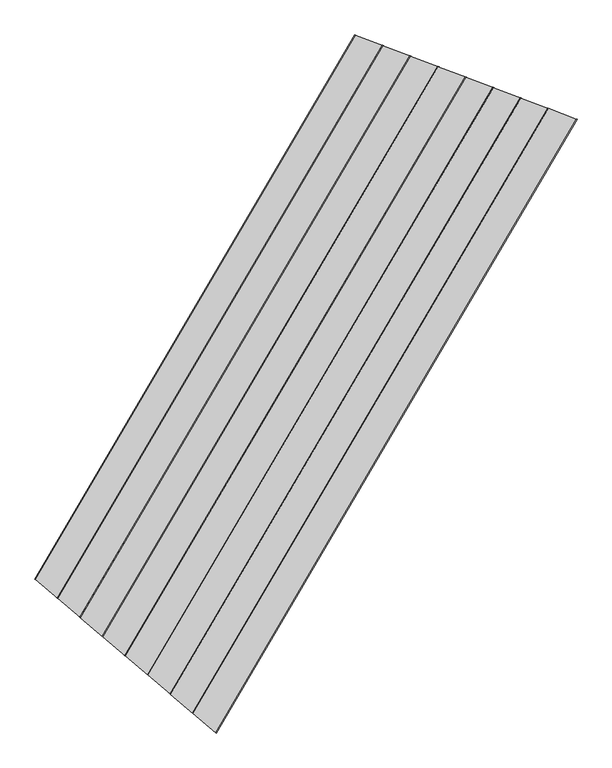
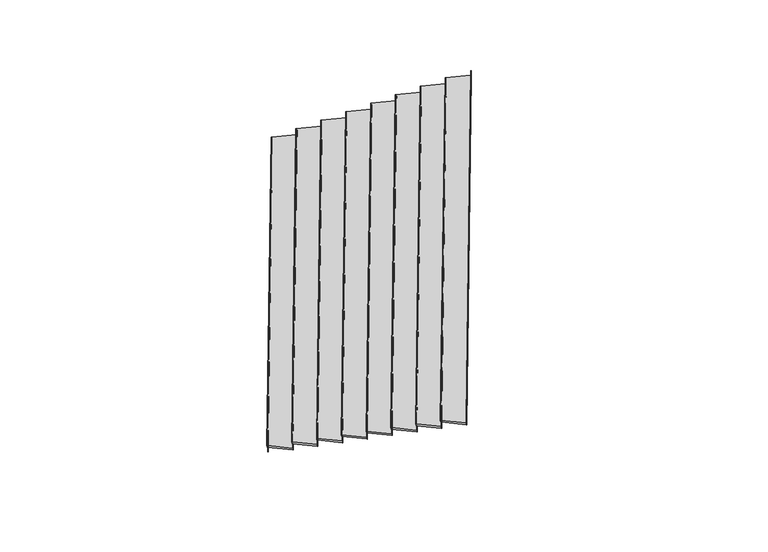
"""IFC4 building model written with IfcOpenShell, lengths in millimetres: stair flight geometry, Wood Steps with 50 mm Tread 20 mm Nosing 13 mm Riser."""

from ifc_helpers import new_model, si_unit, frame, origin, place, context, project, spatial, ellipse_curve, faceted_brep, source, transform, mapped, element, save
from ifc_brep_helpers import plane_surface, cylinder_surface, advanced_brep


def stair_flight_4f2d7eac(model_context):
    return source(origin(), model_context, "Body", "SolidModel", [
        advanced_brep(
        [(913959.7181978, -4840.2369862, 6159.2941176), (913959.7181978, -4840.2369862, 6179.2941176), (920426.3261297, 6161.1936432, 6179.2941176), (920426.3261297, 6161.1936432, 6159.2941176), (920993.7344273, 5945.6025897, 6179.2941176), (914422.7104977, -5233.4675947, 6179.2941176), (920426.3261297, 6161.1936432, 6129.2941176), (920993.7344273, 5945.6025897, 6129.2941176), (914422.7104977, -5233.4675947, 6129.2941176), (913959.7181978, -4840.2369862, 6129.2941176)],
        [
            (0, 1, ellipse_curve(frame((913959.7181978, -4840.2369862, 6169.2941176), z_axis=(0.6473493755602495, 0.7621934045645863, 0.0), x_axis=(0.7621934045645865, -0.647349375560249, 0.0)), 10.1510082, 10.0)),
            (1, 2),
            (2, 3, ellipse_curve(frame((920426.3261297, 6161.1936432, 6169.2941176), z_axis=(-0.3551830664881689, -0.934796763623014, 0.0), x_axis=(-0.9347967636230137, 0.35518306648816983, 0.0)), 10.1432955, 10.0)),
            (3, 0),
            (4, 2),
            (1, 5),
            (5, 4),
            (6, 7),
            (7, 8),
            (8, 9),
            (9, 6),
            (4, 7),
            (6, 3),
            (9, 0),
            (8, 5),
        ],
        [
            cylinder_surface(frame((913959.7181978, -4840.2369862, 6169.2941176), z_axis=(-0.5067393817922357, -0.862099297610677, 0.0), x_axis=(0.862099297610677, -0.5067393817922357, 0.0)), 10.0),
            plane_surface(frame((925739.5110622, 4142.4090361, 6179.2941176), z_axis=(0.0, 0.0, 1.0000000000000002), x_axis=(-0.934796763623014, 0.3551830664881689, 0.0))),
            plane_surface(frame((925739.5110622, 4142.4090361, 6129.2941176), z_axis=(0.0, 0.0, -1.0000000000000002), x_axis=(0.934796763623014, -0.3551830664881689, 0.0))),
            plane_surface(frame((920993.7344273, 5945.6025897, 6179.2941176), z_axis=(0.3551830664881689, 0.934796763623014, 0.0), x_axis=(0.0, 0.0, -1.0))),
            plane_surface(frame((920426.3261297, 6161.1936432, 6179.2941176), z_axis=(-0.862099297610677, 0.5067393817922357, 0.0), x_axis=(0.0, 0.0, -1.0))),
            plane_surface(frame((913959.7181978, -4840.2369862, 6179.2941176), z_axis=(-0.6473493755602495, -0.7621934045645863, 0.0), x_axis=(0.0, 0.0, -1.0))),
            plane_surface(frame((914422.7104977, -5233.4675947, 6179.2941176), z_axis=(0.8620992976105, -0.5067393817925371, 0.0), x_axis=(0.0, 0.0, -1.0))),
        ],
        [
            (0, [[1, 2, 3, 4]]),
            (1, [[5, -2, 6, 7]]),
            (2, [[8, 9, 10, 11]]),
            (3, [[-5, 12, -8, 13, -3]]),
            (4, [[-11, 14, -4, -13]]),
            (5, [[-6, -1, -14, -10, 15]]),
            (6, [[-7, -15, -9, -12]]),
        ],
    ),
        faceted_brep([(913967.4552293, -4846.808235, 6129.2941176), (913967.4552293, -4846.808235, 6000.0), (913977.1265187, -4855.0222961, 6000.0), (913977.1265187, -4855.0222961, 6129.2941176), (920435.8080495, 6157.5909164, 6129.2941176), (920447.6604493, 6153.0875078, 6129.2941176), (920447.6604493, 6153.0875078, 6000.0), (920435.8080495, 6157.5909164, 6000.0)], [[[0, 1, 2, 3]], [[4, 5, 6, 7]], [[1, 0, 4, 7]], [[2, 1, 7, 6]], [[3, 2, 6, 5]], [[0, 3, 5, 4]]]),
        faceted_brep([(914422.7104977, -5233.4675947, 6308.5882353), (914422.7104977, -5233.4675947, 6129.2941176), (914432.3817871, -5241.6816557, 6129.2941176), (914432.3817871, -5241.6816557, 6308.5882353), (920993.7344273, 5945.6025897, 6308.5882353), (921005.5868271, 5941.0991811, 6308.5882353), (921005.5868271, 5941.0991811, 6129.2941176), (920993.7344273, 5945.6025897, 6129.2941176)], [[[0, 1, 2, 3]], [[4, 5, 6, 7]], [[1, 0, 4, 7]], [[2, 1, 7, 6]], [[3, 2, 6, 5]], [[0, 3, 5, 4]]]),
        advanced_brep(
        [(921551.660805, 5733.614263, 6358.5882353), (920984.2525074, 5949.2053165, 6358.5882353), (914414.9734662, -5226.8963458, 6358.5882353), (914877.9657662, -5620.1269543, 6358.5882353), (920984.2525074, 5949.2053165, 6308.5882353), (921551.660805, 5733.614263, 6308.5882353), (914877.9657662, -5620.1269543, 6308.5882353), (914414.9734662, -5226.8963458, 6308.5882353), (920984.2525074, 5949.2053165, 6338.5882353), (914414.9734662, -5226.8963458, 6338.5882353)],
        [
            (0, 1),
            (1, 2),
            (2, 3),
            (3, 0),
            (4, 5),
            (5, 6),
            (6, 7),
            (7, 4),
            (0, 5),
            (4, 8),
            (8, 1, ellipse_curve(frame((920984.2525074, 5949.2053165, 6348.5882353), z_axis=(0.3551830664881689, 0.934796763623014, 0.0), x_axis=(-0.9347967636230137, 0.3551830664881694, 0.0)), 10.1432955, 10.0)),
            (7, 9),
            (9, 8),
            (2, 9, ellipse_curve(frame((914414.9734662, -5226.8963458, 6348.5882353), z_axis=(-0.6473493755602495, -0.7621934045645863, 0.0), x_axis=(0.7621934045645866, -0.647349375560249, 0.0)), 10.1510082, 10.0)),
            (6, 3),
        ],
        [
            plane_surface(frame((925739.5110622, 4142.4090361, 6358.5882353), z_axis=(0.0, 0.0, 1.0000000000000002), x_axis=(-0.934796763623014, 0.3551830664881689, 0.0))),
            plane_surface(frame((925739.5110622, 4142.4090361, 6308.5882353), z_axis=(0.0, 0.0, -1.0000000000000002), x_axis=(0.934796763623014, -0.3551830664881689, 0.0))),
            plane_surface(frame((921551.660805, 5733.614263, 6358.5882353), z_axis=(0.3551830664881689, 0.934796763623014, 0.0), x_axis=(0.0, 0.0, -1.0))),
            plane_surface(frame((920984.2525074, 5949.2053165, 6358.5882353), z_axis=(-0.8620992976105, 0.5067393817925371, 0.0), x_axis=(0.0, 0.0, -1.0))),
            plane_surface(frame((914414.9734662, -5226.8963458, 6358.5882353), z_axis=(-0.6473493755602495, -0.7621934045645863, 0.0), x_axis=(0.0, 0.0, -1.0))),
            plane_surface(frame((914877.9657662, -5620.1269543, 6358.5882353), z_axis=(0.8620992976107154, -0.5067393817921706, 0.0), x_axis=(0.0, 0.0, -1.0))),
            cylinder_surface(frame((914414.9734662, -5226.8963458, 6348.5882353), z_axis=(-0.5067393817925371, -0.8620992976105, 0.0), x_axis=(0.8620992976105, -0.5067393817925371, 0.0)), 10.0),
        ],
        [
            (0, [[1, 2, 3, 4]]),
            (1, [[5, 6, 7, 8]]),
            (2, [[-1, 9, -5, 10, 11]]),
            (3, [[-8, 12, 13, -10]]),
            (4, [[-3, 14, -12, -7, 15]]),
            (5, [[-4, -15, -6, -9]]),
            (6, [[-14, -2, -11, -13]]),
        ],
    ),
        faceted_brep([(914877.9657662, -5620.1269543, 6487.8823529), (914877.9657662, -5620.1269543, 6308.5882353), (914887.6370555, -5628.3410153, 6308.5882353), (914887.6370555, -5628.3410153, 6487.8823529), (921551.660805, 5733.614263, 6487.8823529), (921563.5132048, 5729.1108544, 6487.8823529), (921563.5132048, 5729.1108544, 6308.5882353), (921551.660805, 5733.614263, 6308.5882353)], [[[0, 1, 2, 3]], [[4, 5, 6, 7]], [[1, 0, 4, 7]], [[2, 1, 7, 6]], [[3, 2, 6, 5]], [[0, 3, 5, 4]]]),
        advanced_brep(
        [(922109.5871827, 5521.6259363, 6537.8823529), (921542.1788852, 5737.2169898, 6537.8823529), (914870.2287346, -5613.5557055, 6537.8823529), (915333.2210346, -6006.7863139, 6537.8823529), (921542.1788852, 5737.2169898, 6487.8823529), (922109.5871827, 5521.6259363, 6487.8823529), (915333.2210346, -6006.7863139, 6487.8823529), (914870.2287346, -5613.5557055, 6487.8823529), (921542.1788852, 5737.2169898, 6517.8823529), (914870.2287346, -5613.5557055, 6517.8823529)],
        [
            (0, 1),
            (1, 2),
            (2, 3),
            (3, 0),
            (4, 5),
            (5, 6),
            (6, 7),
            (7, 4),
            (0, 5),
            (4, 8),
            (8, 1, ellipse_curve(frame((921542.1788852, 5737.2169898, 6527.8823529), z_axis=(0.3551830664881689, 0.934796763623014, 0.0), x_axis=(-0.9347967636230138, 0.3551830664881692, 0.0)), 10.1432955, 10.0)),
            (7, 9),
            (9, 8),
            (2, 9, ellipse_curve(frame((914870.2287346, -5613.5557055, 6527.8823529), z_axis=(-0.6473493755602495, -0.7621934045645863, 0.0), x_axis=(0.7621934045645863, -0.6473493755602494, 0.0)), 10.1510082, 10.0)),
            (6, 3),
        ],
        [
            plane_surface(frame((925739.5110622, 4142.4090361, 6537.8823529), z_axis=(0.0, 0.0, 1.0000000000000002), x_axis=(-0.934796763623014, 0.3551830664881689, 0.0))),
            plane_surface(frame((925739.5110622, 4142.4090361, 6487.8823529), z_axis=(0.0, 0.0, -1.0000000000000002), x_axis=(0.934796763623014, -0.3551830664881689, 0.0))),
            plane_surface(frame((922109.5871827, 5521.6259363, 6537.8823529), z_axis=(0.3551830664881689, 0.934796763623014, 0.0), x_axis=(0.0, 0.0, -1.0))),
            plane_surface(frame((921542.1788852, 5737.2169898, 6537.8823529), z_axis=(-0.8620992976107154, 0.5067393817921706, 0.0), x_axis=(0.0, 0.0, -1.0))),
            plane_surface(frame((914870.2287346, -5613.5557055, 6537.8823529), z_axis=(-0.6473493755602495, -0.7621934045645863, 0.0), x_axis=(0.0, 0.0, -1.0))),
            plane_surface(frame((915333.2210346, -6006.7863139, 6537.8823529), z_axis=(0.8620992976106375, -0.506739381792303, 0.0), x_axis=(0.0, 0.0, -1.0))),
            cylinder_surface(frame((914870.2287346, -5613.5557055, 6527.8823529), z_axis=(-0.5067393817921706, -0.8620992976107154, 0.0), x_axis=(0.8620992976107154, -0.5067393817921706, 0.0)), 10.0),
        ],
        [
            (0, [[1, 2, 3, 4]]),
            (1, [[5, 6, 7, 8]]),
            (2, [[-1, 9, -5, 10, 11]]),
            (3, [[-8, 12, 13, -10]]),
            (4, [[-3, 14, -12, -7, 15]]),
            (5, [[-4, -15, -6, -9]]),
            (6, [[-14, -2, -11, -13]]),
        ],
    ),
        faceted_brep([(915333.2210346, -6006.7863139, 6667.1764706), (915333.2210346, -6006.7863139, 6487.8823529), (915342.8923239, -6015.000375, 6487.8823529), (915342.8923239, -6015.000375, 6667.1764706), (922109.5871827, 5521.6259363, 6667.1764706), (922121.4395826, 5517.1225277, 6667.1764706), (922121.4395826, 5517.1225277, 6487.8823529), (922109.5871827, 5521.6259363, 6487.8823529)], [[[0, 1, 2, 3]], [[4, 5, 6, 7]], [[1, 0, 4, 7]], [[2, 1, 7, 6]], [[3, 2, 6, 5]], [[0, 3, 5, 4]]]),
        advanced_brep(
        [(922667.5135605, 5309.6376096, 6717.1764706), (922100.1052629, 5525.2286631, 6717.1764706), (915325.484003, -6000.2150651, 6717.1764706), (915788.476303, -6393.4456736, 6717.1764706), (922100.1052629, 5525.2286631, 6667.1764706), (922667.5135605, 5309.6376096, 6667.1764706), (915788.476303, -6393.4456736, 6667.1764706), (915325.484003, -6000.2150651, 6667.1764706), (922100.1052629, 5525.2286631, 6697.1764706), (915325.484003, -6000.2150651, 6697.1764706)],
        [
            (0, 1),
            (1, 2),
            (2, 3),
            (3, 0),
            (4, 5),
            (5, 6),
            (6, 7),
            (7, 4),
            (0, 5),
            (4, 8),
            (8, 1, ellipse_curve(frame((922100.1052629, 5525.2286631, 6707.1764706), z_axis=(0.3551830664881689, 0.934796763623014, 0.0), x_axis=(-0.9347967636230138, 0.3551830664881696, 0.0)), 10.1432955, 10.0)),
            (7, 9),
            (9, 8),
            (2, 9, ellipse_curve(frame((915325.484003, -6000.2150651, 6707.1764706), z_axis=(-0.6473493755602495, -0.7621934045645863, 0.0), x_axis=(0.7621934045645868, -0.647349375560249, 0.0)), 10.1510082, 10.0)),
            (6, 3),
        ],
        [
            plane_surface(frame((925739.5110622, 4142.4090361, 6717.1764706), z_axis=(0.0, 0.0, 1.0000000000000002), x_axis=(-0.934796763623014, 0.3551830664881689, 0.0))),
            plane_surface(frame((925739.5110622, 4142.4090361, 6667.1764706), z_axis=(0.0, 0.0, -1.0000000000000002), x_axis=(0.934796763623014, -0.3551830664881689, 0.0))),
            plane_surface(frame((922667.5135605, 5309.6376096, 6717.1764706), z_axis=(0.3551830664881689, 0.934796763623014, 0.0), x_axis=(0.0, 0.0, -1.0))),
            plane_surface(frame((922100.1052629, 5525.2286631, 6717.1764706), z_axis=(-0.8620992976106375, 0.506739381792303, 0.0), x_axis=(0.0, 0.0, -1.0))),
            plane_surface(frame((915325.484003, -6000.2150651, 6717.1764706), z_axis=(-0.6473493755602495, -0.7621934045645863, 0.0), x_axis=(0.0, 0.0, -1.0))),
            plane_surface(frame((915788.476303, -6393.4456736, 6717.1764706), z_axis=(0.862099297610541, -0.5067393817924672, 0.0), x_axis=(0.0, 0.0, -1.0))),
            cylinder_surface(frame((915325.484003, -6000.2150651, 6707.1764706), z_axis=(-0.506739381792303, -0.8620992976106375, 0.0), x_axis=(0.8620992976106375, -0.506739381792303, 0.0)), 10.0),
        ],
        [
            (0, [[1, 2, 3, 4]]),
            (1, [[5, 6, 7, 8]]),
            (2, [[-1, 9, -5, 10, 11]]),
            (3, [[-8, 12, 13, -10]]),
            (4, [[-3, 14, -12, -7, 15]]),
            (5, [[-4, -15, -6, -9]]),
            (6, [[-14, -2, -11, -13]]),
        ],
    ),
        faceted_brep([(915788.476303, -6393.4456736, 6846.4705882), (915788.476303, -6393.4456736, 6667.1764706), (915798.1475923, -6401.6597346, 6667.1764706), (915798.1475923, -6401.6597346, 6846.4705882), (922667.5135605, 5309.6376096, 6846.4705882), (922679.3659603, 5305.134201, 6846.4705882), (922679.3659603, 5305.134201, 6667.1764706), (922667.5135605, 5309.6376096, 6667.1764706)], [[[0, 1, 2, 3]], [[4, 5, 6, 7]], [[1, 0, 4, 7]], [[2, 1, 7, 6]], [[3, 2, 6, 5]], [[0, 3, 5, 4]]]),
        advanced_brep(
        [(923225.4399382, 5097.6492829, 6896.4705882), (922658.0316406, 5313.2403364, 6896.4705882), (915780.7392714, -6386.8744247, 6896.4705882), (916243.7315714, -6780.1050332, 6896.4705882), (922658.0316406, 5313.2403364, 6846.4705882), (923225.4399382, 5097.6492829, 6846.4705882), (916243.7315714, -6780.1050332, 6846.4705882), (915780.7392714, -6386.8744247, 6846.4705882), (922658.0316406, 5313.2403364, 6876.4705882), (915780.7392714, -6386.8744247, 6876.4705882)],
        [
            (0, 1),
            (1, 2),
            (2, 3),
            (3, 0),
            (4, 5),
            (5, 6),
            (6, 7),
            (7, 4),
            (0, 5),
            (4, 8),
            (8, 1, ellipse_curve(frame((922658.0316406, 5313.2403364, 6886.4705882), z_axis=(0.3551830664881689, 0.934796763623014, 0.0), x_axis=(-0.9347967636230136, 0.3551830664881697, 0.0)), 10.1432955, 10.0)),
            (7, 9),
            (9, 8),
            (2, 9, ellipse_curve(frame((915780.7392714, -6386.8744247, 6886.4705882), z_axis=(-0.6473493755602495, -0.7621934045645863, 0.0), x_axis=(0.7621934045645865, -0.6473493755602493, 0.0)), 10.1510082, 10.0)),
            (6, 3),
        ],
        [
            plane_surface(frame((925739.5110622, 4142.4090361, 6896.4705882), z_axis=(0.0, 0.0, 1.0000000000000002), x_axis=(-0.934796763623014, 0.3551830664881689, 0.0))),
            plane_surface(frame((925739.5110622, 4142.4090361, 6846.4705882), z_axis=(0.0, 0.0, -1.0000000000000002), x_axis=(0.934796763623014, -0.3551830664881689, 0.0))),
            plane_surface(frame((923225.4399382, 5097.6492829, 6896.4705882), z_axis=(0.3551830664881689, 0.934796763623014, 0.0), x_axis=(0.0, 0.0, -1.0))),
            plane_surface(frame((922658.0316406, 5313.2403364, 6896.4705882), z_axis=(-0.862099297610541, 0.5067393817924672, 0.0), x_axis=(0.0, 0.0, -1.0))),
            plane_surface(frame((915780.7392714, -6386.8744247, 6896.4705882), z_axis=(-0.6473493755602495, -0.7621934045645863, 0.0), x_axis=(0.0, 0.0, -1.0))),
            plane_surface(frame((916243.7315714, -6780.1050332, 6896.4705882), z_axis=(0.8620992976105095, -0.506739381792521, 0.0), x_axis=(0.0, 0.0, -1.0))),
            cylinder_surface(frame((915780.7392714, -6386.8744247, 6886.4705882), z_axis=(-0.5067393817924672, -0.862099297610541, 0.0), x_axis=(0.862099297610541, -0.5067393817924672, 0.0)), 10.0),
        ],
        [
            (0, [[1, 2, 3, 4]]),
            (1, [[5, 6, 7, 8]]),
            (2, [[-1, 9, -5, 10, 11]]),
            (3, [[-8, 12, 13, -10]]),
            (4, [[-3, 14, -12, -7, 15]]),
            (5, [[-4, -15, -6, -9]]),
            (6, [[-14, -2, -11, -13]]),
        ],
    ),
        faceted_brep([(916243.7315714, -6780.1050332, 7025.7647059), (916243.7315714, -6780.1050332, 6846.4705882), (916253.4028608, -6788.3190942, 6846.4705882), (916253.4028608, -6788.3190942, 7025.7647059), (923225.4399382, 5097.6492829, 7025.7647059), (923237.292338, 5093.1458743, 7025.7647059), (923237.292338, 5093.1458743, 6846.4705882), (923225.4399382, 5097.6492829, 6846.4705882)], [[[0, 1, 2, 3]], [[4, 5, 6, 7]], [[1, 0, 4, 7]], [[2, 1, 7, 6]], [[3, 2, 6, 5]], [[0, 3, 5, 4]]]),
        advanced_brep(
        [(923783.366316, 4885.6609562, 7075.7647059), (923215.9580184, 5101.2520097, 7075.7647059), (916235.9945399, -6773.5337844, 7075.7647059), (916698.9868398, -7166.7643928, 7075.7647059), (923215.9580184, 5101.2520097, 7025.7647059), (923783.366316, 4885.6609562, 7025.7647059), (916698.9868398, -7166.7643928, 7025.7647059), (916235.9945399, -6773.5337844, 7025.7647059), (923215.9580184, 5101.2520097, 7055.7647059), (916235.9945399, -6773.5337844, 7055.7647059)],
        [
            (0, 1),
            (1, 2),
            (2, 3),
            (3, 0),
            (4, 5),
            (5, 6),
            (6, 7),
            (7, 4),
            (0, 5),
            (4, 8),
            (8, 1, ellipse_curve(frame((923215.9580184, 5101.2520097, 7065.7647059), z_axis=(0.3551830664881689, 0.934796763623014, 0.0), x_axis=(-0.9347967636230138, 0.3551830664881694, 0.0)), 10.1432955, 10.0)),
            (7, 9),
            (9, 8),
            (2, 9, ellipse_curve(frame((916235.9945399, -6773.5337844, 7065.7647059), z_axis=(-0.6473493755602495, -0.7621934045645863, 0.0), x_axis=(0.7621934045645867, -0.6473493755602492, 0.0)), 10.1510082, 10.0)),
            (6, 3),
        ],
        [
            plane_surface(frame((925739.5110622, 4142.4090361, 7075.7647059), z_axis=(0.0, 0.0, 1.0000000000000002), x_axis=(-0.934796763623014, 0.3551830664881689, 0.0))),
            plane_surface(frame((925739.5110622, 4142.4090361, 7025.7647059), z_axis=(0.0, 0.0, -1.0000000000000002), x_axis=(0.934796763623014, -0.3551830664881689, 0.0))),
            plane_surface(frame((923783.366316, 4885.6609562, 7075.7647059), z_axis=(0.3551830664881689, 0.934796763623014, 0.0), x_axis=(0.0, 0.0, -1.0))),
            plane_surface(frame((923215.9580184, 5101.2520097, 7075.7647059), z_axis=(-0.8620992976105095, 0.506739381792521, 0.0), x_axis=(0.0, 0.0, -1.0))),
            plane_surface(frame((916235.9945399, -6773.5337844, 7075.7647059), z_axis=(-0.6473493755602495, -0.7621934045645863, 0.0), x_axis=(0.0, 0.0, -1.0))),
            plane_surface(frame((916698.9868398, -7166.7643928, 7075.7647059), z_axis=(0.8620992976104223, -0.5067393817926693, 0.0), x_axis=(0.0, 0.0, -1.0))),
            cylinder_surface(frame((916235.9945399, -6773.5337844, 7065.7647059), z_axis=(-0.506739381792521, -0.8620992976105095, 0.0), x_axis=(0.8620992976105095, -0.506739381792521, 0.0)), 10.0),
        ],
        [
            (0, [[1, 2, 3, 4]]),
            (1, [[5, 6, 7, 8]]),
            (2, [[-1, 9, -5, 10, 11]]),
            (3, [[-8, 12, 13, -10]]),
            (4, [[-3, 14, -12, -7, 15]]),
            (5, [[-4, -15, -6, -9]]),
            (6, [[-14, -2, -11, -13]]),
        ],
    ),
        faceted_brep([(916698.9868398, -7166.7643928, 7205.0588235), (916698.9868398, -7166.7643928, 7025.7647059), (916708.6581292, -7174.9784538, 7025.7647059), (916708.6581292, -7174.9784538, 7205.0588235), (923783.366316, 4885.6609562, 7205.0588235), (923795.2187158, 4881.1575477, 7205.0588235), (923795.2187158, 4881.1575477, 7025.7647059), (923783.366316, 4885.6609562, 7025.7647059)], [[[0, 1, 2, 3]], [[4, 5, 6, 7]], [[1, 0, 4, 7]], [[2, 1, 7, 6]], [[3, 2, 6, 5]], [[0, 3, 5, 4]]]),
        advanced_brep(
        [(924341.2926937, 4673.6726295, 7255.0588235), (923773.8843961, 4889.263683, 7255.0588235), (916691.2498083, -7160.193144, 7255.0588235), (917154.2421082, -7553.4237524, 7255.0588235), (923773.8843961, 4889.263683, 7205.0588235), (924341.2926937, 4673.6726295, 7205.0588235), (917154.2421082, -7553.4237524, 7205.0588235), (916691.2498083, -7160.193144, 7205.0588235), (923773.8843961, 4889.263683, 7235.0588235), (916691.2498083, -7160.193144, 7235.0588235)],
        [
            (0, 1),
            (1, 2),
            (2, 3),
            (3, 0),
            (4, 5),
            (5, 6),
            (6, 7),
            (7, 4),
            (0, 5),
            (4, 8),
            (8, 1, ellipse_curve(frame((923773.8843961, 4889.263683, 7245.0588235), z_axis=(0.3551830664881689, 0.934796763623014, 0.0), x_axis=(-0.9347967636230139, 0.35518306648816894, 0.0)), 10.1432955, 10.0)),
            (7, 9),
            (9, 8),
            (2, 9, ellipse_curve(frame((916691.2498083, -7160.193144, 7245.0588235), z_axis=(-0.6473493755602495, -0.7621934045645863, 0.0), x_axis=(0.7621934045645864, -0.6473493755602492, 0.0)), 10.1510082, 10.0)),
            (6, 3),
        ],
        [
            plane_surface(frame((925739.5110622, 4142.4090361, 7255.0588235), z_axis=(0.0, 0.0, 1.0000000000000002), x_axis=(-0.934796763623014, 0.3551830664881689, 0.0))),
            plane_surface(frame((925739.5110622, 4142.4090361, 7205.0588235), z_axis=(0.0, 0.0, -1.0000000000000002), x_axis=(0.934796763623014, -0.3551830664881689, 0.0))),
            plane_surface(frame((924341.2926937, 4673.6726295, 7255.0588235), z_axis=(0.3551830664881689, 0.934796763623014, 0.0), x_axis=(0.0, 0.0, -1.0))),
            plane_surface(frame((923773.8843961, 4889.263683, 7255.0588235), z_axis=(-0.8620992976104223, 0.5067393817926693, 0.0), x_axis=(0.0, 0.0, -1.0))),
            plane_surface(frame((916691.2498083, -7160.193144, 7255.0588235), z_axis=(-0.6473493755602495, -0.7621934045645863, 0.0), x_axis=(0.0, 0.0, -1.0))),
            plane_surface(frame((917154.2421082, -7553.4237524, 7255.0588235), z_axis=(0.8620992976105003, -0.5067393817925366, 0.0), x_axis=(0.0, 0.0, -1.0))),
            cylinder_surface(frame((916691.2498083, -7160.193144, 7245.0588235), z_axis=(-0.5067393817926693, -0.8620992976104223, 0.0), x_axis=(0.8620992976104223, -0.5067393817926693, 0.0)), 10.0),
        ],
        [
            (0, [[1, 2, 3, 4]]),
            (1, [[5, 6, 7, 8]]),
            (2, [[-1, 9, -5, 10, 11]]),
            (3, [[-8, 12, 13, -10]]),
            (4, [[-3, 14, -12, -7, 15]]),
            (5, [[-4, -15, -6, -9]]),
            (6, [[-14, -2, -11, -13]]),
        ],
    ),
        faceted_brep([(917154.2421082, -7553.4237524, 7384.3529412), (917154.2421082, -7553.4237524, 7205.0588235), (917163.9133976, -7561.6378135, 7205.0588235), (917163.9133976, -7561.6378135, 7384.3529412), (924341.2926937, 4673.6726295, 7384.3529412), (924353.1450935, 4669.169221, 7384.3529412), (924353.1450935, 4669.169221, 7205.0588235), (924341.2926937, 4673.6726295, 7205.0588235)], [[[0, 1, 2, 3]], [[4, 5, 6, 7]], [[1, 0, 4, 7]], [[2, 1, 7, 6]], [[3, 2, 6, 5]], [[0, 3, 5, 4]]]),
        faceted_brep([(917609.4973766, -7940.0831121, 7563.6470588), (917609.4973766, -7940.0831121, 7384.3529412), (917619.168666, -7948.2971731, 7384.3529412), (917619.168666, -7948.2971731, 7563.6470588), (924899.2190715, 4461.6843028, 7563.6470588), (924911.0714713, 4457.1808943, 7563.6470588), (924911.0714713, 4457.1808943, 7384.3529412), (924899.2190715, 4461.6843028, 7384.3529412)], [[[0, 1, 2, 3]], [[4, 5, 6, 7]], [[1, 0, 4, 7]], [[2, 1, 7, 6]], [[3, 2, 6, 5]], [[0, 3, 5, 4]]]),
        advanced_brep(
        [(924899.2190715, 4461.6843028, 7434.3529412), (924331.8107739, 4677.2753563, 7434.3529412), (917146.5050767, -7546.8525036, 7434.3529412), (917609.4973766, -7940.0831121, 7434.3529412), (924331.8107739, 4677.2753563, 7384.3529412), (924899.2190715, 4461.6843028, 7384.3529412), (917609.4973766, -7940.0831121, 7384.3529412), (917146.5050767, -7546.8525036, 7384.3529412), (924331.8107739, 4677.2753563, 7414.3529412), (917146.5050767, -7546.8525036, 7414.3529412)],
        [
            (0, 1),
            (1, 2),
            (2, 3),
            (3, 0),
            (4, 5),
            (5, 6),
            (6, 7),
            (7, 4),
            (0, 5),
            (4, 8),
            (8, 1, ellipse_curve(frame((924331.8107739, 4677.2753563, 7424.3529412), z_axis=(0.3551830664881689, 0.934796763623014, 0.0), x_axis=(-0.9347967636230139, 0.3551830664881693, 0.0)), 10.1432955, 10.0)),
            (7, 9),
            (9, 8),
            (2, 9, ellipse_curve(frame((917146.5050767, -7546.8525036, 7424.3529412), z_axis=(-0.6473493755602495, -0.7621934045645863, 0.0), x_axis=(0.7621934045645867, -0.6473493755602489, 0.0)), 10.1510082, 10.0)),
            (6, 3),
        ],
        [
            plane_surface(frame((925739.5110622, 4142.4090361, 7434.3529412), z_axis=(0.0, 0.0, 1.0000000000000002), x_axis=(-0.934796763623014, 0.3551830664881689, 0.0))),
            plane_surface(frame((925739.5110622, 4142.4090361, 7384.3529412), z_axis=(0.0, 0.0, -1.0000000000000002), x_axis=(0.934796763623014, -0.3551830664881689, 0.0))),
            plane_surface(frame((924899.2190715, 4461.6843028, 7434.3529412), z_axis=(0.3551830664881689, 0.934796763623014, 0.0), x_axis=(0.0, 0.0, -1.0))),
            plane_surface(frame((924331.8107739, 4677.2753563, 7434.3529412), z_axis=(-0.8620992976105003, 0.5067393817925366, 0.0), x_axis=(0.0, 0.0, -1.0))),
            plane_surface(frame((917146.5050767, -7546.8525036, 7434.3529412), z_axis=(-0.6473493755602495, -0.7621934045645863, 0.0), x_axis=(0.0, 0.0, -1.0))),
            plane_surface(frame((917609.4973766, -7940.0831121, 7434.3529412), z_axis=(0.8620992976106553, -0.5067393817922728, 0.0), x_axis=(0.0, 0.0, -1.0))),
            cylinder_surface(frame((917146.5050767, -7546.8525036, 7424.3529412), z_axis=(-0.5067393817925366, -0.8620992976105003, 0.0), x_axis=(0.8620992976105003, -0.5067393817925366, 0.0)), 10.0),
        ],
        [
            (0, [[1, 2, 3, 4]]),
            (1, [[5, 6, 7, 8]]),
            (2, [[-1, 9, -5, 10, 11]]),
            (3, [[-8, 12, 13, -10]]),
            (4, [[-3, 14, -12, -7, 15]]),
            (5, [[-4, -15, -6, -9]]),
            (6, [[-14, -2, -11, -13]]),
        ],
    ),
    ])


if __name__ == "__main__":
    model = new_model("IFC4")
    model_context = context("Model", 3, world=origin())
    ifc_project = project(units=[si_unit("LENGTHUNIT", "METRE", prefix="MILLI")], contexts=[model_context])
    site = spatial("IfcSite", under=ifc_project)
    building = spatial("IfcBuilding", under=site)
    placement = place(None, origin())
    stair_flight_shape = stair_flight_4f2d7eac(model_context)
    element("IfcStairFlight", 1, ObjectType="Wood Steps with 50 mm Tread 20 mm Nosing 13 mm Riser", at=placement, inside=building, context=model_context, shape_type="MappedRepresentation", body=[
        mapped(stair_flight_shape, transform((0.0, 0.0, 0.0), x_axis=(1.0, 0.0, 0.0), y_axis=(0.0, 1.0, 0.0), z_axis=(0.0, 0.0, 1.0))),
    ])
    save(model, "model.ifc")
